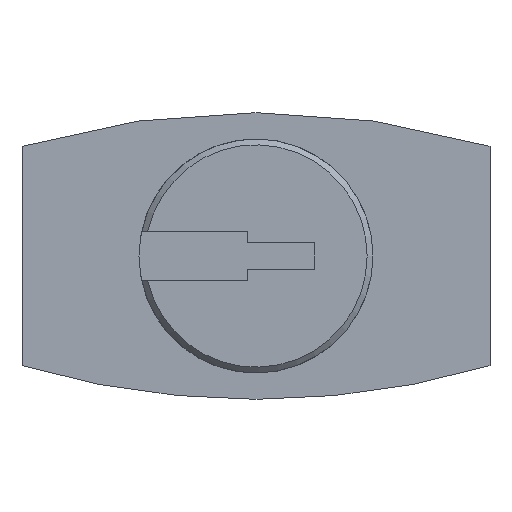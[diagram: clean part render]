
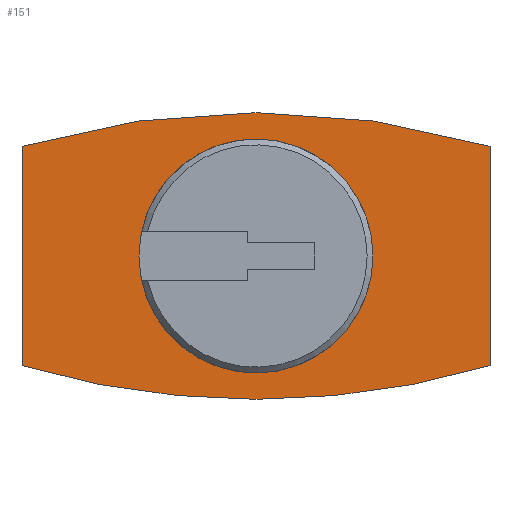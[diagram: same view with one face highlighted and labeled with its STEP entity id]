
A CAD part, front view. The second image highlights one B-rep face of the part: STEP entity #151.
In plain terms, the highlighted planar face has unit normal (0, -1, 0).
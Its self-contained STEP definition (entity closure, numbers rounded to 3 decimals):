
#3 = DIRECTION ( 'NONE',  ( 1., 0., 0. ) ) ;
#7 = CARTESIAN_POINT ( 'NONE',  ( 0., 0., -23.501 ) ) ;
#19 = DIRECTION ( 'NONE',  ( 0., -1., 0. ) ) ;
#21 = DIRECTION ( 'NONE',  ( 0., 0., 1. ) ) ;
#23 = CARTESIAN_POINT ( 'NONE',  ( -8., 0., -3.75 ) ) ;
#35 = CARTESIAN_POINT ( 'NONE',  ( 0., 0., 0. ) ) ;
#45 = DIRECTION ( 'NONE',  ( 0., -1., 0. ) ) ;
#46 = DIRECTION ( 'NONE',  ( 0., 0., 1. ) ) ;
#56 = CARTESIAN_POINT ( 'NONE',  ( 8., 0., -3.75 ) ) ;
#86 = DIRECTION ( 'NONE',  ( 0., 1., 0. ) ) ;
#92 = DIRECTION ( 'NONE',  ( 0., 0., 1. ) ) ;
#93 = CARTESIAN_POINT ( 'NONE',  ( 0., 0., 23.501 ) ) ;
#101 = DIRECTION ( 'NONE',  ( 0., 0., -1. ) ) ;
#103 = DIRECTION ( 'NONE',  ( 1., 0., 0. ) ) ;
#107 = CARTESIAN_POINT ( 'NONE',  ( 0., 0., 0. ) ) ;
#120 = DIRECTION ( 'NONE',  ( 0., 1., 0. ) ) ;
#151 = ADVANCED_FACE ( 'NONE', ( #298, #227 ), #726, .F. ) ;
#159 = LINE ( 'NONE', #56, #368 ) ;
#162 = CIRCLE ( 'NONE', #690, 28.401 ) ;
#177 = EDGE_LOOP ( 'NONE', ( #385, #254, #205, #397, #189 ) ) ;
#189 = ORIENTED_EDGE ( 'NONE', *, *, #834, .F. ) ;
#197 = EDGE_LOOP ( 'NONE', ( #367, #498 ) ) ;
#205 = ORIENTED_EDGE ( 'NONE', *, *, #656, .F. ) ;
#213 = CIRCLE ( 'NONE', #618, 4. ) ;
#216 = CIRCLE ( 'NONE', #613, 4. ) ;
#227 = FACE_OUTER_BOUND ( 'NONE', #177, .T. ) ;
#239 = LINE ( 'NONE', #23, #352 ) ;
#254 = ORIENTED_EDGE ( 'NONE', *, *, #835, .F. ) ;
#276 = CIRCLE ( 'NONE', #612, 28.401 ) ;
#298 = FACE_BOUND ( 'NONE', #197, .T. ) ;
#306 = CIRCLE ( 'NONE', #614, 28.401 ) ;
#352 = VECTOR ( 'NONE', #46, 1000. ) ;
#367 = ORIENTED_EDGE ( 'NONE', *, *, #837, .F. ) ;
#368 = VECTOR ( 'NONE', #101, 1000. ) ;
#385 = ORIENTED_EDGE ( 'NONE', *, *, #833, .F. ) ;
#397 = ORIENTED_EDGE ( 'NONE', *, *, #838, .F. ) ;
#425 = VERTEX_POINT ( 'NONE', #523 ) ;
#434 = VERTEX_POINT ( 'NONE', #545 ) ;
#435 = VERTEX_POINT ( 'NONE', #571 ) ;
#449 = VERTEX_POINT ( 'NONE', #579 ) ;
#478 = VERTEX_POINT ( 'NONE', #596 ) ;
#483 = VERTEX_POINT ( 'NONE', #518 ) ;
#495 = VERTEX_POINT ( 'NONE', #581 ) ;
#498 = ORIENTED_EDGE ( 'NONE', *, *, #802, .F. ) ;
#518 = CARTESIAN_POINT ( 'NONE',  ( 4., 0., 0. ) ) ;
#523 = CARTESIAN_POINT ( 'NONE',  ( -4., 0., 0. ) ) ;
#530 = DIRECTION ( 'NONE',  ( 0., 0., 1. ) ) ;
#543 = DIRECTION ( 'NONE',  ( 0., 1., 0. ) ) ;
#545 = CARTESIAN_POINT ( 'NONE',  ( 8., 0., 3.75 ) ) ;
#551 = CARTESIAN_POINT ( 'NONE',  ( 0., 0., 23.501 ) ) ;
#571 = CARTESIAN_POINT ( 'NONE',  ( -8., 0., 3.75 ) ) ;
#579 = CARTESIAN_POINT ( 'NONE',  ( 8., 0., -3.75 ) ) ;
#581 = CARTESIAN_POINT ( 'NONE',  ( 0., 0., -4.9 ) ) ;
#596 = CARTESIAN_POINT ( 'NONE',  ( -8., 0., -3.75 ) ) ;
#612 = AXIS2_PLACEMENT_3D ( 'NONE', #7, #120, #92 ) ;
#613 = AXIS2_PLACEMENT_3D ( 'NONE', #107, #19, #103 ) ;
#614 = AXIS2_PLACEMENT_3D ( 'NONE', #93, #86, #21 ) ;
#618 = AXIS2_PLACEMENT_3D ( 'NONE', #35, #45, #3 ) ;
#656 = EDGE_CURVE ( 'NONE', #495, #478, #162, .T. ) ;
#662 = AXIS2_PLACEMENT_3D ( 'NONE', #782, #745, #753 ) ;
#690 = AXIS2_PLACEMENT_3D ( 'NONE', #551, #543, #530 ) ;
#726 = PLANE ( 'NONE',  #662 ) ;
#745 = DIRECTION ( 'NONE',  ( 0., 1., 0. ) ) ;
#753 = DIRECTION ( 'NONE',  ( 0., 0., 1. ) ) ;
#782 = CARTESIAN_POINT ( 'NONE',  ( 0., 0., -23.501 ) ) ;
#802 = EDGE_CURVE ( 'NONE', #425, #483, #213, .T. ) ;
#833 = EDGE_CURVE ( 'NONE', #435, #434, #276, .T. ) ;
#834 = EDGE_CURVE ( 'NONE', #434, #449, #159, .T. ) ;
#835 = EDGE_CURVE ( 'NONE', #478, #435, #239, .T. ) ;
#837 = EDGE_CURVE ( 'NONE', #483, #425, #216, .T. ) ;
#838 = EDGE_CURVE ( 'NONE', #449, #495, #306, .T. ) ;
